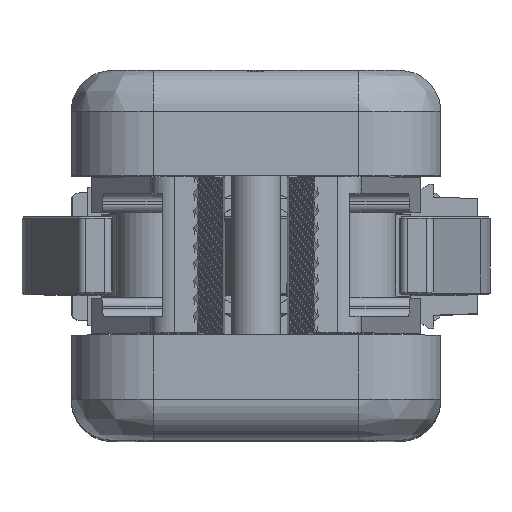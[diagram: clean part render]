
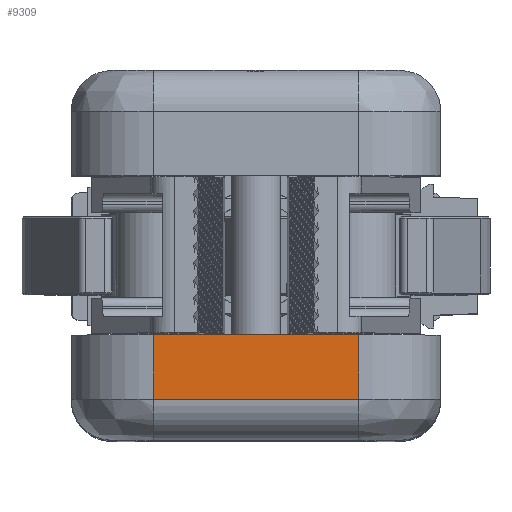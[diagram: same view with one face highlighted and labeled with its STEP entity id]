
A CAD part, top view. The second image highlights one B-rep face of the part: STEP entity #9309.
In plain terms, the highlighted planar face has unit normal (0, 0, 1).
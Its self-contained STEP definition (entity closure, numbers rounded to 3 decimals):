
#6274=LINE('',#25014,#7443);
#6275=LINE('',#25017,#7444);
#6276=LINE('',#25019,#7445);
#6277=LINE('',#25021,#7446);
#7443=VECTOR('',#20917,1.);
#7444=VECTOR('',#20918,1.);
#7445=VECTOR('',#20919,1.);
#7446=VECTOR('',#20920,1.);
#8198=PLANE('',#18592);
#8724=FACE_OUTER_BOUND('',#10738,.T.);
#9309=ADVANCED_FACE('',(#8724),#8198,.F.);
#10738=EDGE_LOOP('',(#12832,#12833,#12834,#12835));
#12832=ORIENTED_EDGE('',*,*,#16787,.T.);
#12833=ORIENTED_EDGE('',*,*,#16788,.T.);
#12834=ORIENTED_EDGE('',*,*,#16789,.T.);
#12835=ORIENTED_EDGE('',*,*,#16790,.T.);
#15420=VERTEX_POINT('',#25015);
#15421=VERTEX_POINT('',#25016);
#15422=VERTEX_POINT('',#25018);
#15423=VERTEX_POINT('',#25020);
#16787=EDGE_CURVE('',#15420,#15421,#6274,.T.);
#16788=EDGE_CURVE('',#15421,#15422,#6275,.T.);
#16789=EDGE_CURVE('',#15422,#15423,#6276,.T.);
#16790=EDGE_CURVE('',#15423,#15420,#6277,.T.);
#18592=AXIS2_PLACEMENT_3D('',#25022,#20921,#20922);
#20917=DIRECTION('',(1.,0.,0.));
#20918=DIRECTION('',(0.,1.,0.));
#20919=DIRECTION('',(-1.,0.,0.));
#20920=DIRECTION('',(0.,-1.,0.));
#20921=DIRECTION('',(0.,0.,-1.));
#20922=DIRECTION('',(1.,0.,0.));
#25014=CARTESIAN_POINT('',(22.5,-17.5,203.));
#25015=CARTESIAN_POINT('',(-12.5,-17.5,203.));
#25016=CARTESIAN_POINT('',(12.5,-17.5,203.));
#25017=CARTESIAN_POINT('',(12.5,-22.5,203.));
#25018=CARTESIAN_POINT('',(12.5,-9.7,203.));
#25019=CARTESIAN_POINT('',(-22.5,-9.7,203.));
#25020=CARTESIAN_POINT('',(-12.5,-9.7,203.));
#25021=CARTESIAN_POINT('',(-12.5,-22.5,203.));
#25022=CARTESIAN_POINT('',(-22.5,-22.5,203.));
